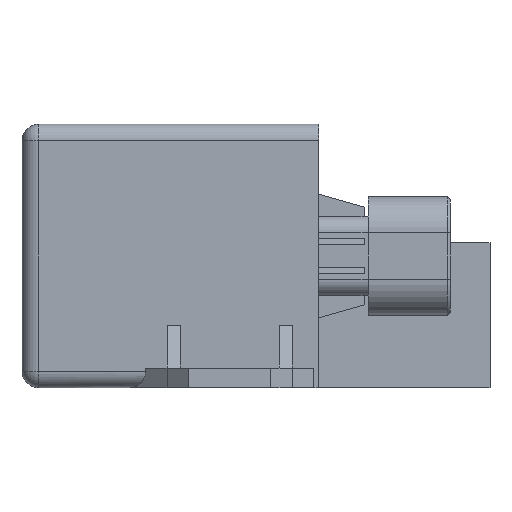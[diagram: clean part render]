
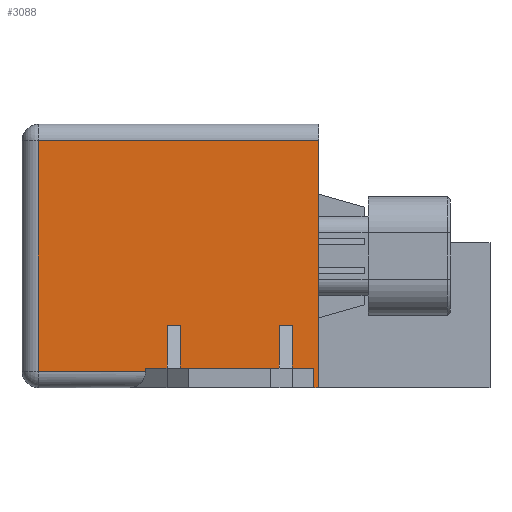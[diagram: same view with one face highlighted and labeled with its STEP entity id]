
A CAD part, left-side view. The second image highlights one B-rep face of the part: STEP entity #3088.
In plain terms, the highlighted planar face has unit normal (-1, 0, 0).
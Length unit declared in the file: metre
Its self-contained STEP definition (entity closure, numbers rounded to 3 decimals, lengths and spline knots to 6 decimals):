
#379=ORIENTED_EDGE('',*,*,#1201,.T.);
#380=ORIENTED_EDGE('',*,*,#1202,.T.);
#381=ORIENTED_EDGE('',*,*,#1203,.T.);
#382=ORIENTED_EDGE('',*,*,#1204,.T.);
#383=ORIENTED_EDGE('',*,*,#1205,.T.);
#384=ORIENTED_EDGE('',*,*,#1206,.F.);
#385=ORIENTED_EDGE('',*,*,#1207,.T.);
#386=ORIENTED_EDGE('',*,*,#1208,.T.);
#387=ORIENTED_EDGE('',*,*,#1194,.T.);
#388=ORIENTED_EDGE('',*,*,#1209,.F.);
#389=ORIENTED_EDGE('',*,*,#1210,.F.);
#390=ORIENTED_EDGE('',*,*,#1211,.T.);
#391=ORIENTED_EDGE('',*,*,#1187,.T.);
#392=ORIENTED_EDGE('',*,*,#1212,.T.);
#393=ORIENTED_EDGE('',*,*,#1213,.T.);
#394=ORIENTED_EDGE('',*,*,#1214,.F.);
#1187=EDGE_CURVE('',#1607,#1608,#1869,.T.);
#1194=EDGE_CURVE('',#1615,#1614,#1875,.T.);
#1201=EDGE_CURVE('',#1621,#1622,#1882,.F.);
#1202=EDGE_CURVE('',#1622,#1623,#1883,.T.);
#1203=EDGE_CURVE('',#1623,#1624,#1884,.T.);
#1204=EDGE_CURVE('',#1624,#1625,#1885,.T.);
#1205=EDGE_CURVE('',#1625,#1626,#1886,.T.);
#1206=EDGE_CURVE('',#1627,#1626,#1887,.T.);
#1207=EDGE_CURVE('',#1627,#1628,#1888,.T.);
#1208=EDGE_CURVE('',#1628,#1615,#1889,.T.);
#1209=EDGE_CURVE('',#1629,#1614,#1890,.T.);
#1210=EDGE_CURVE('',#1630,#1629,#1891,.T.);
#1211=EDGE_CURVE('',#1630,#1607,#1892,.T.);
#1212=EDGE_CURVE('',#1608,#1631,#1893,.T.);
#1213=EDGE_CURVE('',#1631,#1632,#1894,.T.);
#1214=EDGE_CURVE('',#1621,#1632,#1895,.T.);
#1607=VERTEX_POINT('',#5403);
#1608=VERTEX_POINT('',#5404);
#1614=VERTEX_POINT('',#5417);
#1615=VERTEX_POINT('',#5419);
#1621=VERTEX_POINT('',#5433);
#1622=VERTEX_POINT('',#5434);
#1623=VERTEX_POINT('',#5436);
#1624=VERTEX_POINT('',#5438);
#1625=VERTEX_POINT('',#5440);
#1626=VERTEX_POINT('',#5442);
#1627=VERTEX_POINT('',#5444);
#1628=VERTEX_POINT('',#5446);
#1629=VERTEX_POINT('',#5449);
#1630=VERTEX_POINT('',#5451);
#1631=VERTEX_POINT('',#5454);
#1632=VERTEX_POINT('',#5456);
#1869=LINE('',#5402,#2217);
#1875=LINE('',#5418,#2223);
#1882=LINE('',#5432,#2230);
#1883=LINE('',#5435,#2231);
#1884=LINE('',#5437,#2232);
#1885=LINE('',#5439,#2233);
#1886=LINE('',#5441,#2234);
#1887=LINE('',#5443,#2235);
#1888=LINE('',#5445,#2236);
#1889=LINE('',#5447,#2237);
#1890=LINE('',#5448,#2238);
#1891=LINE('',#5450,#2239);
#1892=LINE('',#5452,#2240);
#1893=LINE('',#5453,#2241);
#1894=LINE('',#5455,#2242);
#1895=LINE('',#5457,#2243);
#2217=VECTOR('',#3760,1.);
#2223=VECTOR('',#3770,1.);
#2230=VECTOR('',#3779,1.);
#2231=VECTOR('',#3780,1.);
#2232=VECTOR('',#3781,1.);
#2233=VECTOR('',#3782,1.);
#2234=VECTOR('',#3783,1.);
#2235=VECTOR('',#3784,1.);
#2236=VECTOR('',#3785,1.);
#2237=VECTOR('',#3786,1.);
#2238=VECTOR('',#3787,1.);
#2239=VECTOR('',#3788,1.);
#2240=VECTOR('',#3789,1.);
#2241=VECTOR('',#3790,1.);
#2242=VECTOR('',#3791,1.);
#2243=VECTOR('',#3792,1.);
#2554=EDGE_LOOP('',(#379,#380,#381,#382,#383,#384,#385,#386,#387,#388,#389,
#390,#391,#392,#393,#394));
#2758=FACE_BOUND('',#2554,.T.);
#2941=PLANE('',#3390);
#3088=ADVANCED_FACE('',(#2758),#2941,.F.);
#3390=AXIS2_PLACEMENT_3D('',#5431,#3777,#3778);
#3760=DIRECTION('',(0.,-1.,0.));
#3770=DIRECTION('',(0.,-1.,0.));
#3777=DIRECTION('',(1.,0.,0.));
#3778=DIRECTION('',(0.,0.,-1.));
#3779=DIRECTION('',(0.,-1.,0.));
#3780=DIRECTION('',(0.,0.,-1.));
#3781=DIRECTION('',(0.,-1.,0.));
#3782=DIRECTION('',(0.,0.,1.));
#3783=DIRECTION('',(0.,-1.,0.));
#3784=DIRECTION('',(0.,0.,-1.));
#3785=DIRECTION('',(0.,-1.,0.));
#3786=DIRECTION('',(0.,0.,-1.));
#3787=DIRECTION('',(0.,0.,-1.));
#3788=DIRECTION('',(0.,1.,0.));
#3789=DIRECTION('',(0.,0.,-1.));
#3790=DIRECTION('',(0.,0.,-1.));
#3791=DIRECTION('',(0.,-1.,0.));
#3792=DIRECTION('',(0.,0.,-1.));
#5402=CARTESIAN_POINT('',(-0.0315,-0.011,0.003));
#5403=CARTESIAN_POINT('',(-0.0315,-0.041,0.003));
#5404=CARTESIAN_POINT('',(-0.0315,-0.04425,0.003));
#5417=CARTESIAN_POINT('',(-0.0315,-0.039,0.003));
#5418=CARTESIAN_POINT('',(-0.0315,-0.011,0.003));
#5419=CARTESIAN_POINT('',(-0.0315,-0.024,0.003));
#5431=CARTESIAN_POINT('',(-0.0315,-0.043,0.003));
#5432=CARTESIAN_POINT('',(-0.0315,0.,0.0375));
#5433=CARTESIAN_POINT('',(-0.0315,-0.045,0.0375));
#5434=CARTESIAN_POINT('',(-0.0315,-0.0025,0.0375));
#5435=CARTESIAN_POINT('',(-0.0315,-0.0025,0.0025));
#5436=CARTESIAN_POINT('',(-0.0315,-0.0025,0.0025));
#5437=CARTESIAN_POINT('',(-0.0315,-0.043,0.0025));
#5438=CARTESIAN_POINT('',(-0.0315,-0.01875,0.0025));
#5439=CARTESIAN_POINT('',(-0.0315,-0.01875,0.003));
#5440=CARTESIAN_POINT('',(-0.0315,-0.01875,0.003));
#5441=CARTESIAN_POINT('',(-0.0315,-0.011,0.003));
#5442=CARTESIAN_POINT('',(-0.0315,-0.022,0.003));
#5443=CARTESIAN_POINT('',(-0.0315,-0.022,0.0095));
#5444=CARTESIAN_POINT('',(-0.0315,-0.022,0.0095));
#5445=CARTESIAN_POINT('',(-0.0315,-0.023,0.0095));
#5446=CARTESIAN_POINT('',(-0.0315,-0.024,0.0095));
#5447=CARTESIAN_POINT('',(-0.0315,-0.024,0.0095));
#5448=CARTESIAN_POINT('',(-0.0315,-0.039,0.0095));
#5449=CARTESIAN_POINT('',(-0.0315,-0.039,0.0095));
#5450=CARTESIAN_POINT('',(-0.0315,-0.04,0.0095));
#5451=CARTESIAN_POINT('',(-0.0315,-0.041,0.0095));
#5452=CARTESIAN_POINT('',(-0.0315,-0.041,0.0095));
#5453=CARTESIAN_POINT('',(-0.0315,-0.04425,0.));
#5454=CARTESIAN_POINT('',(-0.0315,-0.04425,0.));
#5455=CARTESIAN_POINT('',(-0.0315,-0.043,0.));
#5456=CARTESIAN_POINT('',(-0.0315,-0.045,0.));
#5457=CARTESIAN_POINT('',(-0.0315,-0.045,0.003));
